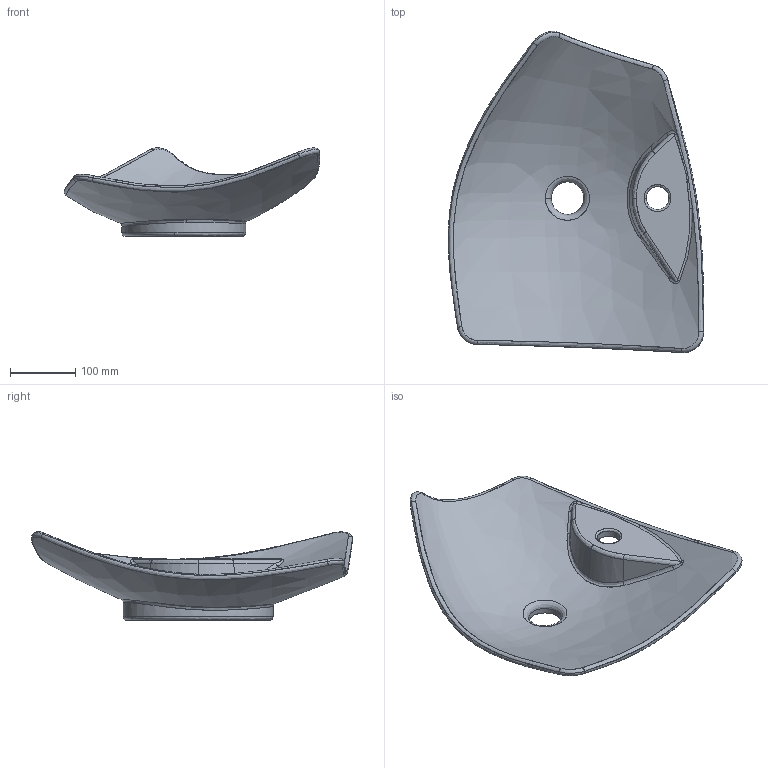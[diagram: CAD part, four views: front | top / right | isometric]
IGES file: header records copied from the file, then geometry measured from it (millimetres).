
Start section: C
Global section: file name: Kong 50-R.igs; native system:  By UGS Corp.; preprocessor: XPlus GENERIC/IGES 3.0; author: Author; organization: Title; date: 20120323.131346; units: millimetre
Bounding box: 391.63 x 492.69 x 135.68 mm (x, y, z)
Surface area: 393100 mm2 (no closed solid volume)
Topology: 0 solids, 0 shells, 54 faces, 258 edges, 258 vertices
Faces by surface type: bspline 54
